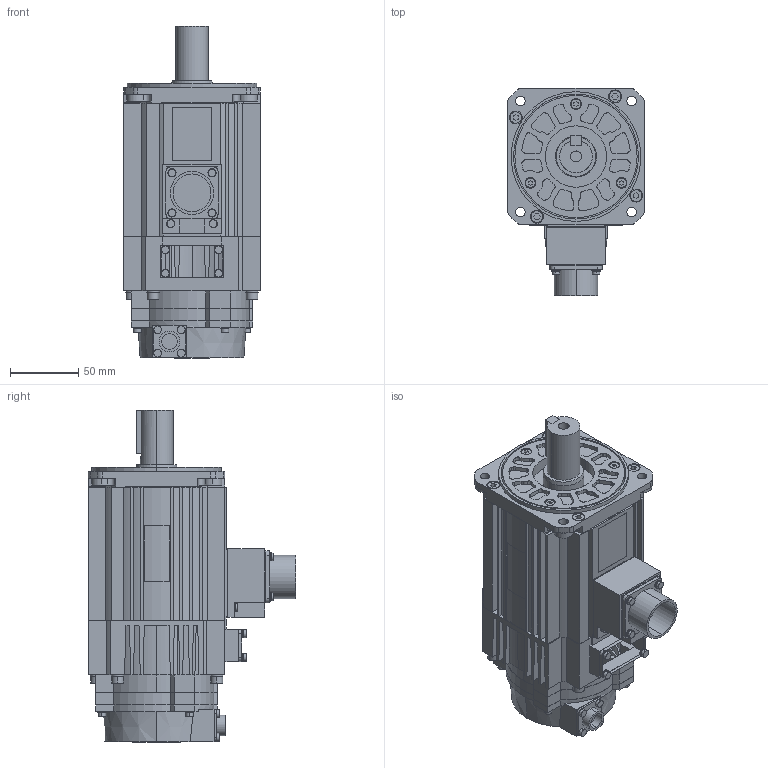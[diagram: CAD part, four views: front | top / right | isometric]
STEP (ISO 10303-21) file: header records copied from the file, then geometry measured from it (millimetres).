
FILE_DESCRIPTION (( 'STEP AP203' ), '1' );
FILE_NAME ('sgmsv_15a_a6c.STEP', '2011-03-20T11:46:17', ( '匠エンジニアリング山之内' ), ( 'TAKUMI-Engniaring' ), 'SwSTEP 2.0', 'SolidWorks 2006303', '' );
FILE_SCHEMA (( 'CONFIG_CONTROL_DESIGN' ));
Length unit declared in the file: millimetre
Products named in the file (3): sgmsv_15a_a6c; sgmsv_15a_a6c_base; sgmsv_15a_a6c_key
Assembly tree (2 placements, depth 2):
  sgmsv_15a_a6c
    sgmsv_15a_a6c_base
    sgmsv_15a_a6c_key
Bounding box: 100 x 151.75 x 243.1 mm (x, y, z)
Volume: 1652382.7 mm3; surface area: 155614.3 mm2
Topology: 2 solids, 2 shells, 996 faces, 2555 edges, 1670 vertices
Faces by surface type: plane 578, cylinder 395, cone 23
Entity records: 30705 total; most frequent: DIRECTION 5423, CARTESIAN_POINT 5358, ORIENTED_EDGE 5110, EDGE_CURVE 2555, AXIS2_PLACEMENT_3D 1900, VERTEX_POINT 1670, VECTOR 1623, LINE 1623
